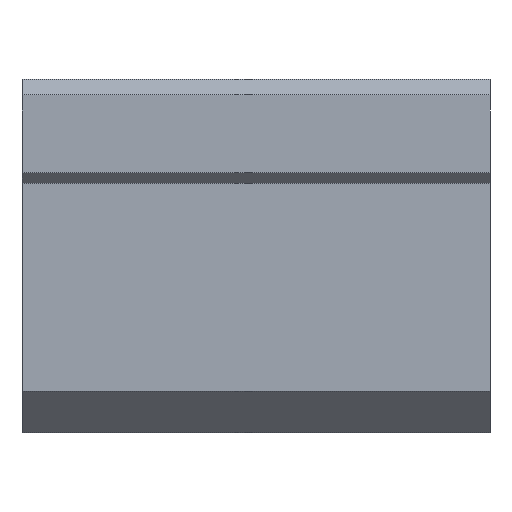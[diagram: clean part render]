
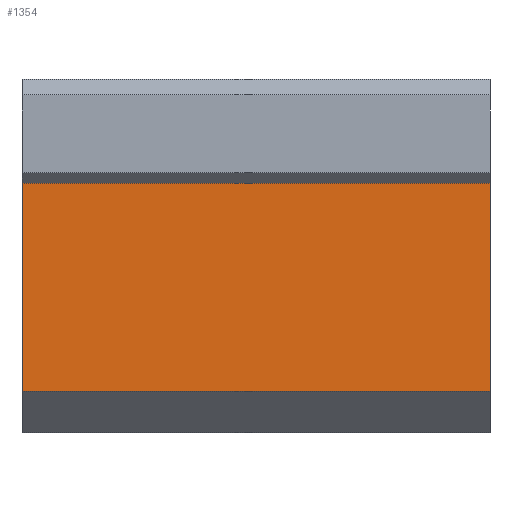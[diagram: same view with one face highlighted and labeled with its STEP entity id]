
A CAD part, front view. The second image highlights one B-rep face of the part: STEP entity #1354.
In plain terms, the highlighted planar face has unit normal (0, -1, 0).
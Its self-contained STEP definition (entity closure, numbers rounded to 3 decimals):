
#1291=CARTESIAN_POINT('',(45.0,-21.5,-10.));
#1292=VERTEX_POINT('',#1291);
#1299=CARTESIAN_POINT('',(0.0,-21.5,-10.));
#1300=VERTEX_POINT('',#1299);
#1301=CARTESIAN_POINT('',(45.0,-21.5,-10.));
#1302=DIRECTION('',(-1.0,0.0,0.0));
#1303=VECTOR('',#1302,45.0);
#1304=LINE('',#1301,#1303);
#1305=EDGE_CURVE('',#1292,#1300,#1304,.T.);
#1324=CARTESIAN_POINT('',(0.0,-21.5,-14.));
#1325=DIRECTION('',(0.0,-1.0,0.0));
#1326=DIRECTION('',(0.0,0.0,-1.0));
#1327=AXIS2_PLACEMENT_3D('',#1324,#1325,#1326);
#1328=PLANE('',#1327);
#1329=ORIENTED_EDGE('',*,*,#1305,.F.);
#1330=CARTESIAN_POINT('',(45.0,-21.5,10.0));
#1331=VERTEX_POINT('',#1330);
#1332=CARTESIAN_POINT('',(45.0,-21.5,-10.));
#1333=DIRECTION('',(0.0,0.0,1.0));
#1334=VECTOR('',#1333,20.);
#1335=LINE('',#1332,#1334);
#1336=EDGE_CURVE('',#1292,#1331,#1335,.T.);
#1337=ORIENTED_EDGE('',*,*,#1336,.T.);
#1338=CARTESIAN_POINT('',(0.0,-21.5,10.0));
#1339=VERTEX_POINT('',#1338);
#1340=CARTESIAN_POINT('',(0.0,-21.5,10.0));
#1341=DIRECTION('',(1.0,0.0,0.0));
#1342=VECTOR('',#1341,45.0);
#1343=LINE('',#1340,#1342);
#1344=EDGE_CURVE('',#1339,#1331,#1343,.T.);
#1345=ORIENTED_EDGE('',*,*,#1344,.F.);
#1346=CARTESIAN_POINT('',(0.0,-21.5,10.0));
#1347=DIRECTION('',(0.0,0.0,-1.0));
#1348=VECTOR('',#1347,20.);
#1349=LINE('',#1346,#1348);
#1350=EDGE_CURVE('',#1339,#1300,#1349,.T.);
#1351=ORIENTED_EDGE('',*,*,#1350,.T.);
#1352=EDGE_LOOP('',(#1329,#1337,#1345,#1351));
#1353=FACE_OUTER_BOUND('',#1352,.T.);
#1354=ADVANCED_FACE('',(#1353),#1328,.T.);
